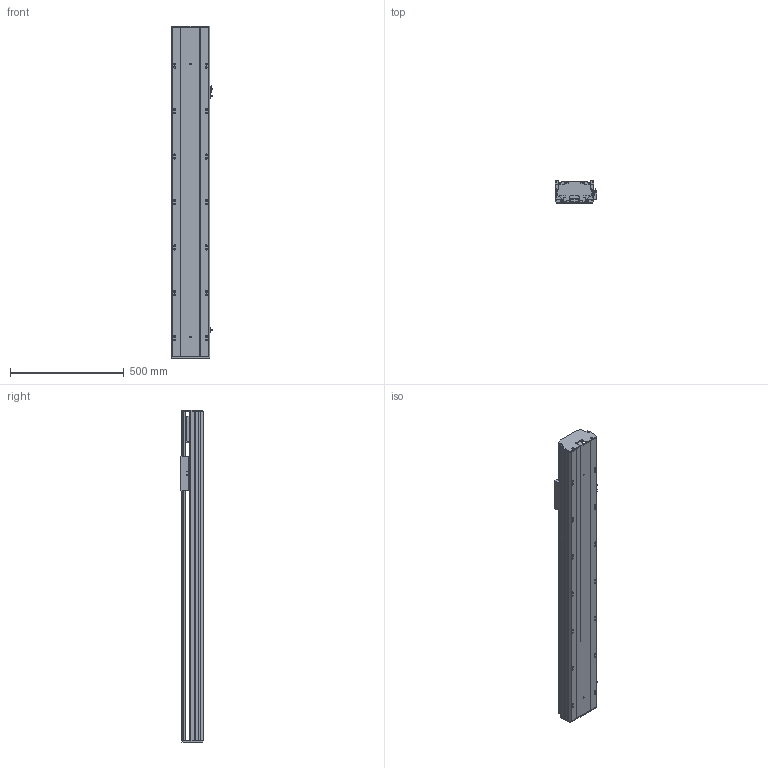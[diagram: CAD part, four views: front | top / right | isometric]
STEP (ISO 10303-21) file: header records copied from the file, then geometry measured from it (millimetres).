
FILE_DESCRIPTION (( 'STEP AP203' ), '1' );
FILE_NAME ('Y170-D10-S1050-M-P400W.STEP', '2020-01-22T13:00:54', ( '微软用户' ), ( '微软中国' ), 'SwSTEP 2.0', 'SolidWorks 2017', '' );
FILE_SCHEMA (( 'CONFIG_CONTROL_DESIGN' ));
Length unit declared in the file: millimetre
Products named in the file (10): 170--掛极-M; Y170耜裔--準---M; san松下电机400不带刹车----; Y170-陔遴奻裔-M; YD-Y100-135-新外置传感挡片(通用）; Y170-D10-S1050-M-P400W; Y100-135俋离換覜ん; 135-盓傅釱-FK15; Y170耜裔--準---; Y170--雄赽釱-梓--
Assembly tree (11 placements, depth 2):
  Y170-D10-S1050-M-P400W
    YD-Y100-135-新外置传感挡片(通用）
    Y100-135俋离換覜ん  x3
    135-盓傅釱-FK15
    Y170耜裔--準---
    Y170--雄赽釱-梓--
    170--掛极-M
    Y170耜裔--準---M
    san松下电机400不带刹车----
    Y170-陔遴奻裔-M
Bounding box: 183.5 x 97 x 1461 mm (x, y, z)
Volume: 6228223.2 mm3; surface area: 2214213.1 mm2
Topology: 11 solids, 11 shells, 797 faces, 2276 edges, 1508 vertices
Faces by surface type: cylinder 411, plane 384, torus 2
Entity records: 25980 total; most frequent: CARTESIAN_POINT 4681, DIRECTION 4302, ORIENTED_EDGE 4216, EDGE_CURVE 2108, AXIS2_PLACEMENT_3D 1529, VERTEX_POINT 1396, VECTOR 1244, LINE 1244
